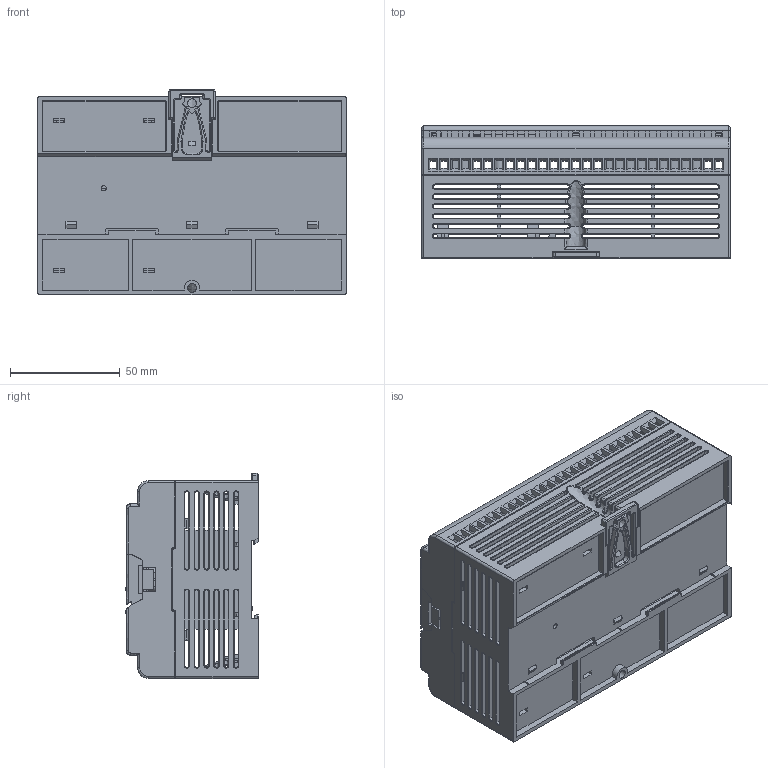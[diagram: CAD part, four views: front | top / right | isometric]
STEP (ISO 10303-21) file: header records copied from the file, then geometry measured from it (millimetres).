
FILE_DESCRIPTION(/* description */ (''),/* implementation_level */ '2;1');
FILE_NAME(/* name */ 'b1-40m-standard-20210609',/* time_stamp */ '2021-12-10T04:18:00+08:00',/* author */ (''),/* organization */ (''),/* preprocessor_version */ 'ST-DEVELOPER v16.5',/* originating_system */ '',/* authorisation */ '');
FILE_SCHEMA (('AUTOMOTIVE_DESIGN'));
Products named in the file (7): Document; B1-40M-DOWN_COVER_ASM; B1-40M-DOWN_COVER; JOIN; CV_PS; B1-40M-IO2_COVER; B1-NEW-40M-UP_COVER
Assembly tree (6 placements, depth 3):
  Document
    B1-40M-DOWN_COVER_ASM
      B1-40M-DOWN_COVER
      JOIN
    CV_PS
    B1-40M-IO2_COVER
    B1-NEW-40M-UP_COVER
Bounding box: 140.4 x 60.15 x 93.25 mm (x, y, z)
Volume: 100344.5 mm3; surface area: 132941.3 mm2
Topology: 5 solids, 5 shells, 3567 faces, 10175 edges, 6525 vertices
Faces by surface type: plane 2546, bspline 1021
Entity records: 135813 total; most frequent: CARTESIAN_POINT 70114, ORIENTED_EDGE 20350, EDGE_CURVE 10175, B_SPLINE_CURVE_WITH_KNOTS 8758, VERTEX_POINT 6525, EDGE_LOOP 4222, ADVANCED_FACE 3567, FACE_OUTER_BOUND 3567
